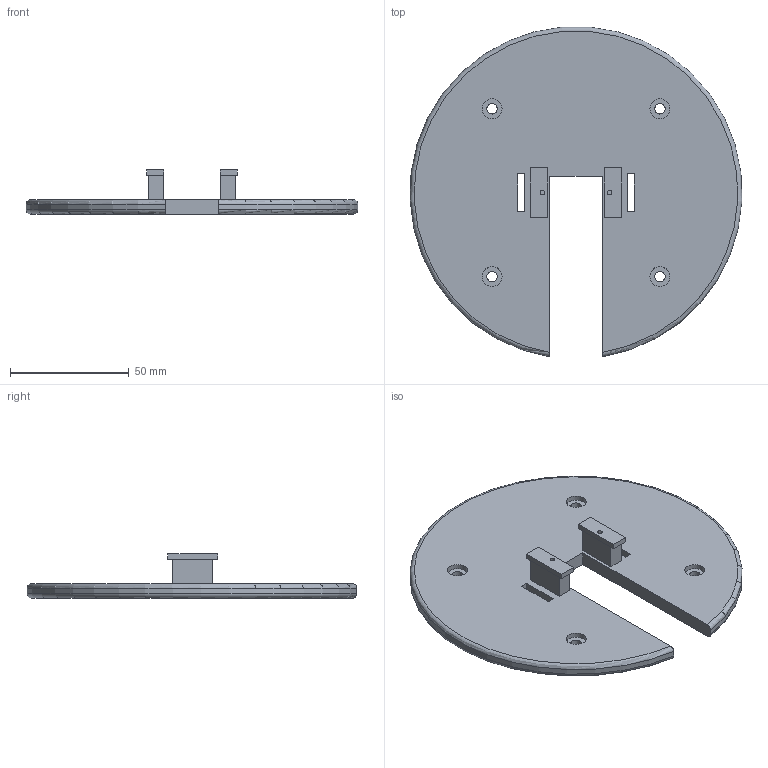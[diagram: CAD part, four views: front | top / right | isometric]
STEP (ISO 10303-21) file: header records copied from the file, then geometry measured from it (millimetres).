
FILE_DESCRIPTION(('Open CASCADE Model'),'2;1');
FILE_NAME('Open CASCADE Shape Model','2026-08-26T11:10:48',('Author'),( 'Open CASCADE'),'Open CASCADE STEP processor 7.9','Open CASCADE 7.9' ,'Unknown');
FILE_SCHEMA(('AUTOMOTIVE_DESIGN { 1 0 10303 214 1 1 1 1 }'));
Length unit declared in the file: millimetre
Products named in the file (1): Open CASCADE STEP translator 7.9 4
Bounding box: 139.83 x 138.88 x 18.6 mm (x, y, z)
Volume: 83220.3 mm3; surface area: 32370.5 mm2
Topology: 1 solids, 1 shells, 52 faces, 120 edges, 80 vertices
Faces by surface type: plane 39, cylinder 11, torus 2
Full cylindrical faces by diameter (mm): 1.9 x2, 4.4 x4, 8.4 x4
Entity records: 3229 total; most frequent: CARTESIAN_POINT 815, DIRECTION 413, ORIENTED_EDGE 240, PCURVE 240, DEFINITIONAL_REPRESENTATION 240, LINE 238, VECTOR 238, EDGE_CURVE 120
